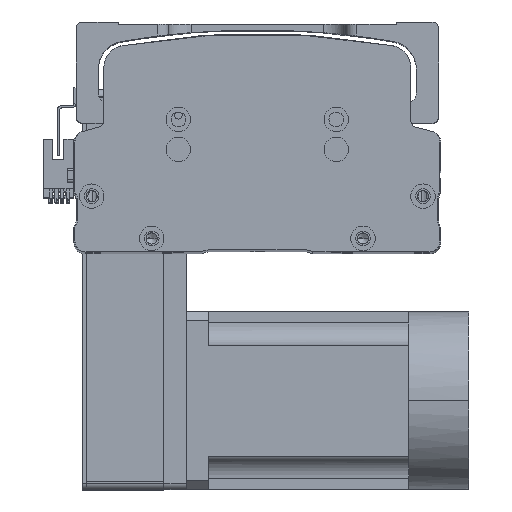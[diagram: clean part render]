
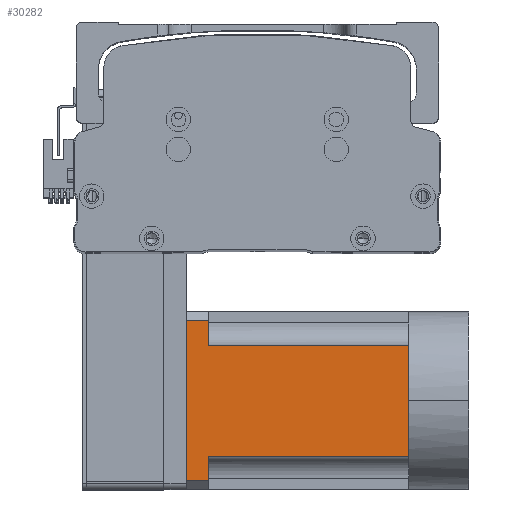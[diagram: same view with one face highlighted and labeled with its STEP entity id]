
A CAD part, top view. The second image highlights one B-rep face of the part: STEP entity #30282.
In plain terms, the highlighted planar face has unit normal (0, 0, 1) as drawn and (0, 0, -1) by its records, which use the part's own axes.
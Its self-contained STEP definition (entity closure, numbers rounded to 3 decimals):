
#236 = VERTEX_POINT ( 'NONE', #18975 ) ;
#327 = VERTEX_POINT ( 'NONE', #43334 ) ;
#3156 = CARTESIAN_POINT ( 'NONE',  ( 0., 0., -40. ) ) ;
#3268 = VERTEX_POINT ( 'NONE', #40598 ) ;
#3436 = EDGE_CURVE ( 'NONE', #54354, #21095, #3724, .T. ) ;
#3724 = LINE ( 'NONE', #51568, #25888 ) ;
#3757 = DIRECTION ( 'NONE',  ( -1., 0., 0. ) ) ;
#3769 = EDGE_CURVE ( 'NONE', #21095, #56290, #45782, .T. ) ;
#4136 = VECTOR ( 'NONE', #59983, 1000. ) ;
#4793 = CARTESIAN_POINT ( 'NONE',  ( -40., 0., -40. ) ) ;
#5114 = DIRECTION ( 'NONE',  ( -1., 0., 0. ) ) ;
#6367 = VERTEX_POINT ( 'NONE', #28057 ) ;
#8185 = LINE ( 'NONE', #33388, #55539 ) ;
#9449 = EDGE_CURVE ( 'NONE', #6367, #3268, #8185, .T. ) ;
#9525 = DIRECTION ( 'NONE',  ( -1., 0., 0. ) ) ;
#9843 = LINE ( 'NONE', #4793, #46038 ) ;
#11558 = LINE ( 'NONE', #34226, #33738 ) ;
#12138 = VERTEX_POINT ( 'NONE', #29606 ) ;
#12436 = PLANE ( 'NONE',  #29091 ) ;
#12637 = DIRECTION ( 'NONE',  ( 0., 0., -1. ) ) ;
#14106 = VECTOR ( 'NONE', #18342, 1000. ) ;
#16225 = EDGE_CURVE ( 'NONE', #236, #12138, #16713, .T. ) ;
#16713 = LINE ( 'NONE', #40744, #4136 ) ;
#18322 = ORIENTED_EDGE ( 'NONE', *, *, #3769, .T. ) ;
#18342 = DIRECTION ( 'NONE',  ( -1., 0., 0. ) ) ;
#18975 = CARTESIAN_POINT ( 'NONE',  ( 36., 100., -40. ) ) ;
#20639 = CARTESIAN_POINT ( 'NONE',  ( -40., 0., -40. ) ) ;
#20640 = EDGE_CURVE ( 'NONE', #3268, #327, #27414, .T. ) ;
#21095 = VERTEX_POINT ( 'NONE', #59994 ) ;
#24204 = ORIENTED_EDGE ( 'NONE', *, *, #9449, .T. ) ;
#24726 = CARTESIAN_POINT ( 'NONE',  ( -25., 0., -40. ) ) ;
#25888 = VECTOR ( 'NONE', #42038, 1000. ) ;
#26984 = DIRECTION ( 'NONE',  ( 0., 1., 0. ) ) ;
#27046 = ORIENTED_EDGE ( 'NONE', *, *, #59598, .T. ) ;
#27414 = LINE ( 'NONE', #60045, #36960 ) ;
#28057 = CARTESIAN_POINT ( 'NONE',  ( -25., 90., -40. ) ) ;
#29091 = AXIS2_PLACEMENT_3D ( 'NONE', #45457, #12637, #45665 ) ;
#29606 = CARTESIAN_POINT ( 'NONE',  ( 36., 90., -40. ) ) ;
#30282 = ADVANCED_FACE ( 'NONE', ( #58945 ), #12436, .T. ) ;
#31521 = EDGE_CURVE ( 'NONE', #236, #327, #46821, .T. ) ;
#31685 = EDGE_CURVE ( 'NONE', #56290, #52249, #9843, .T. ) ;
#31766 = VECTOR ( 'NONE', #48937, 1000. ) ;
#32069 = CARTESIAN_POINT ( 'NONE',  ( -40., 100., -40. ) ) ;
#33388 = CARTESIAN_POINT ( 'NONE',  ( -40., 90., -40. ) ) ;
#33738 = VECTOR ( 'NONE', #48465, 1000. ) ;
#34226 = CARTESIAN_POINT ( 'NONE',  ( -25., -27., -40. ) ) ;
#34255 = VECTOR ( 'NONE', #3757, 1000. ) ;
#34960 = ORIENTED_EDGE ( 'NONE', *, *, #45233, .T. ) ;
#36960 = VECTOR ( 'NONE', #26984, 1000. ) ;
#40598 = CARTESIAN_POINT ( 'NONE',  ( -36., 90., -40. ) ) ;
#40744 = CARTESIAN_POINT ( 'NONE',  ( 36., -27., -40. ) ) ;
#42038 = DIRECTION ( 'NONE',  ( 0., -1., 0. ) ) ;
#42348 = ORIENTED_EDGE ( 'NONE', *, *, #31685, .T. ) ;
#43303 = ORIENTED_EDGE ( 'NONE', *, *, #31521, .F. ) ;
#43334 = CARTESIAN_POINT ( 'NONE',  ( -36., 100., -40. ) ) ;
#43513 = ORIENTED_EDGE ( 'NONE', *, *, #3436, .T. ) ;
#45018 = ORIENTED_EDGE ( 'NONE', *, *, #16225, .T. ) ;
#45233 = EDGE_CURVE ( 'NONE', #12138, #54354, #51810, .T. ) ;
#45457 = CARTESIAN_POINT ( 'NONE',  ( -40., -27., -40. ) ) ;
#45665 = DIRECTION ( 'NONE',  ( -1., 0., 0. ) ) ;
#45782 = LINE ( 'NONE', #20639, #31766 ) ;
#46038 = VECTOR ( 'NONE', #9525, 1000. ) ;
#46615 = CARTESIAN_POINT ( 'NONE',  ( -40., 90., -40. ) ) ;
#46821 = LINE ( 'NONE', #32069, #34255 ) ;
#46970 = CARTESIAN_POINT ( 'NONE',  ( 25., 90., -40. ) ) ;
#48465 = DIRECTION ( 'NONE',  ( 0., 1., 0. ) ) ;
#48937 = DIRECTION ( 'NONE',  ( -1., 0., 0. ) ) ;
#51568 = CARTESIAN_POINT ( 'NONE',  ( 25., -27., -40. ) ) ;
#51810 = LINE ( 'NONE', #46615, #14106 ) ;
#52249 = VERTEX_POINT ( 'NONE', #24726 ) ;
#54354 = VERTEX_POINT ( 'NONE', #46970 ) ;
#54688 = ORIENTED_EDGE ( 'NONE', *, *, #20640, .T. ) ;
#55539 = VECTOR ( 'NONE', #5114, 1000. ) ;
#56290 = VERTEX_POINT ( 'NONE', #3156 ) ;
#58945 = FACE_OUTER_BOUND ( 'NONE', #60196, .T. ) ;
#59598 = EDGE_CURVE ( 'NONE', #52249, #6367, #11558, .T. ) ;
#59983 = DIRECTION ( 'NONE',  ( 0., -1., 0. ) ) ;
#59994 = CARTESIAN_POINT ( 'NONE',  ( 25., 0., -40. ) ) ;
#60045 = CARTESIAN_POINT ( 'NONE',  ( -36., -27., -40. ) ) ;
#60196 = EDGE_LOOP ( 'NONE', ( #43303, #45018, #34960, #43513, #18322, #42348, #27046, #24204, #54688 ) ) ;
